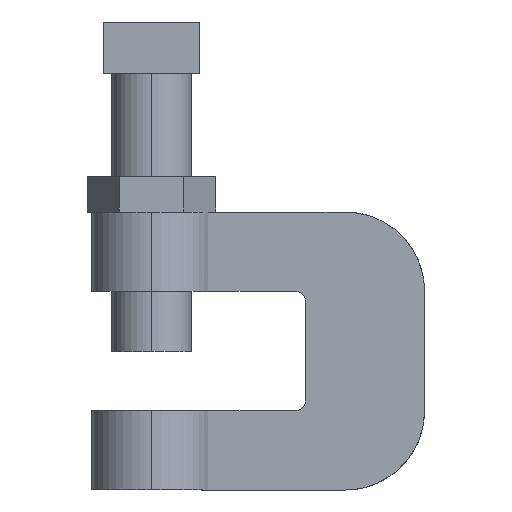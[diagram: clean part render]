
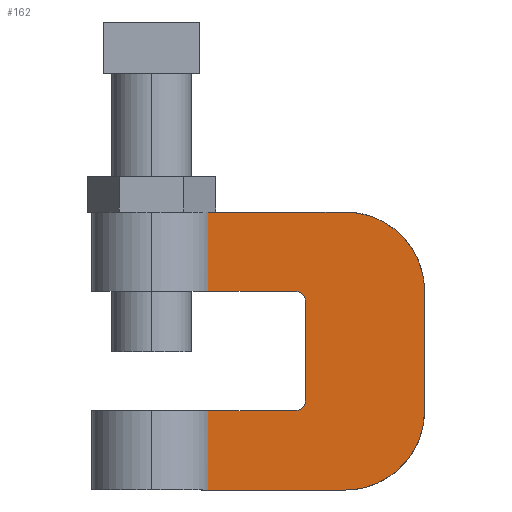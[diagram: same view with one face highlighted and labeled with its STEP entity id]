
A CAD part, front view. The second image highlights one B-rep face of the part: STEP entity #162.
In plain terms, the highlighted planar face has unit normal (0, -1, 0).
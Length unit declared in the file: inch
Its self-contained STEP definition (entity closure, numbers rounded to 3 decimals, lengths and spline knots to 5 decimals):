
#162=ADVANCED_FACE('',(#338),#339,.F.);
#338=FACE_OUTER_BOUND('',#642,.T.);
#339=PLANE('',#643);
#642=EDGE_LOOP('',(#1055,#1056,#1057,#1058,#1059,#1060,#1061,#1062,#1063,#1064,#1065,#1066,#1067,#1068,#1069,#1070));
#643=AXIS2_PLACEMENT_3D('',#1071,#1072,#1073);
#1055=ORIENTED_EDGE('',*,*,#1418,.T.);
#1056=ORIENTED_EDGE('',*,*,#1312,.T.);
#1057=ORIENTED_EDGE('',*,*,#1419,.F.);
#1058=ORIENTED_EDGE('',*,*,#1420,.F.);
#1059=ORIENTED_EDGE('',*,*,#1421,.F.);
#1060=ORIENTED_EDGE('',*,*,#1378,.F.);
#1061=ORIENTED_EDGE('',*,*,#1340,.F.);
#1062=ORIENTED_EDGE('',*,*,#1422,.F.);
#1063=ORIENTED_EDGE('',*,*,#1371,.F.);
#1064=ORIENTED_EDGE('',*,*,#1423,.T.);
#1065=ORIENTED_EDGE('',*,*,#1415,.T.);
#1066=ORIENTED_EDGE('',*,*,#1424,.F.);
#1067=ORIENTED_EDGE('',*,*,#1425,.F.);
#1068=ORIENTED_EDGE('',*,*,#1356,.F.);
#1069=ORIENTED_EDGE('',*,*,#1360,.F.);
#1070=ORIENTED_EDGE('',*,*,#1426,.F.);
#1071=CARTESIAN_POINT('',(0.65504,-0.125,0.87498));
#1072=DIRECTION('',(0.,1.0,0.));
#1073=DIRECTION('',(0.0,0.,1.0));
#1312=EDGE_CURVE('',#1558,#1559,#1560,.T.);
#1340=EDGE_CURVE('',#1600,#1602,#1603,.T.);
#1356=EDGE_CURVE('',#1625,#1627,#1628,.T.);
#1360=EDGE_CURVE('',#1631,#1625,#1633,.T.);
#1371=EDGE_CURVE('',#1649,#1651,#1652,.T.);
#1378=EDGE_CURVE('',#1602,#1661,#1662,.T.);
#1415=EDGE_CURVE('',#1715,#1713,#1716,.T.);
#1418=EDGE_CURVE('',#1719,#1558,#1720,.T.);
#1419=EDGE_CURVE('',#1721,#1559,#1722,.T.);
#1420=EDGE_CURVE('',#1723,#1721,#1724,.T.);
#1421=EDGE_CURVE('',#1661,#1723,#1725,.T.);
#1422=EDGE_CURVE('',#1651,#1600,#1726,.T.);
#1423=EDGE_CURVE('',#1649,#1715,#1727,.T.);
#1424=EDGE_CURVE('',#1728,#1713,#1729,.T.);
#1425=EDGE_CURVE('',#1627,#1728,#1730,.T.);
#1426=EDGE_CURVE('',#1719,#1631,#1731,.T.);
#1558=VERTEX_POINT('',#1933);
#1559=VERTEX_POINT('',#1934);
#1560=LINE('',#1935,#1936);
#1600=VERTEX_POINT('',#2023);
#1602=VERTEX_POINT('',#2026);
#1603=B_SPLINE_CURVE_WITH_KNOTS('',3,(#2027,#2028,#2029,#2030),.UNSPECIFIED.,.F.,.F.,(4,4),(0.0,1.0),.UNSPECIFIED.);
#1625=VERTEX_POINT('',#2070);
#1627=VERTEX_POINT('',#2073);
#1628=LINE('',#2074,#2075);
#1631=VERTEX_POINT('',#2079);
#1633=B_SPLINE_CURVE_WITH_KNOTS('',3,(#2082,#2083,#2084,#2085),.UNSPECIFIED.,.F.,.F.,(4,4),(0.0,1.0),.UNSPECIFIED.);
#1649=VERTEX_POINT('',#2116);
#1651=VERTEX_POINT('',#2119);
#1652=LINE('',#2120,#2121);
#1661=VERTEX_POINT('',#2138);
#1662=LINE('',#2139,#2140);
#1713=VERTEX_POINT('',#2235);
#1715=VERTEX_POINT('',#2242);
#1716=LINE('',#2243,#2244);
#1719=VERTEX_POINT('',#2250);
#1720=LINE('',#2251,#2252);
#1721=VERTEX_POINT('',#2253);
#1722=LINE('',#2254,#2255);
#1723=VERTEX_POINT('',#2256);
#1724=LINE('',#2257,#2258);
#1725=B_SPLINE_CURVE_WITH_KNOTS('',3,(#2259,#2260,#2261,#2262),.UNSPECIFIED.,.F.,.F.,(4,4),(0.0,1.0),.UNSPECIFIED.);
#1726=LINE('',#2263,#2264);
#1727=LINE('',#2265,#2266);
#1728=VERTEX_POINT('',#2267);
#1729=LINE('',#2268,#2269);
#1730=B_SPLINE_CURVE_WITH_KNOTS('',3,(#2270,#2271,#2272,#2273),.UNSPECIFIED.,.F.,.F.,(4,4),(0.0,1.0),.UNSPECIFIED.);
#1731=LINE('',#2274,#2275);
#1933=CARTESIAN_POINT('',(0.04141,-0.125,0.00001));
#1934=CARTESIAN_POINT('',(0.0,-0.125,0.00001));
#1935=CARTESIAN_POINT('',(0.17139,-0.125,0.00001));
#1936=VECTOR('',#2400,1.0);
#2023=CARTESIAN_POINT('',(0.90663,-0.125,1.75));
#2026=CARTESIAN_POINT('',(1.40663,-0.125,1.25));
#2027=CARTESIAN_POINT('',(0.90663,-0.125,1.75));
#2028=CARTESIAN_POINT('',(1.18277,-0.125,1.75));
#2029=CARTESIAN_POINT('',(1.40663,-0.125,1.52614));
#2030=CARTESIAN_POINT('',(1.40663,-0.125,1.25));
#2070=CARTESIAN_POINT('',(0.65663,-0.125,0.5625));
#2073=CARTESIAN_POINT('',(0.65663,-0.125,1.1875));
#2074=CARTESIAN_POINT('',(0.65663,-0.125,0.5625));
#2075=VECTOR('',#2417,1.0);
#2079=CARTESIAN_POINT('',(0.59413,-0.125,0.5));
#2082=CARTESIAN_POINT('',(0.59413,-0.125,0.5));
#2083=CARTESIAN_POINT('',(0.62865,-0.125,0.5));
#2084=CARTESIAN_POINT('',(0.65663,-0.125,0.52798));
#2085=CARTESIAN_POINT('',(0.65663,-0.125,0.5625));
#2116=CARTESIAN_POINT('',(0.00009,-0.125,1.7498));
#2119=CARTESIAN_POINT('',(0.00009,-0.125,1.75));
#2120=CARTESIAN_POINT('',(0.00009,-0.125,1.25));
#2121=VECTOR('',#2424,1.0);
#2138=CARTESIAN_POINT('',(1.40663,-0.125,0.5));
#2139=CARTESIAN_POINT('',(1.40663,-0.125,1.25));
#2140=VECTOR('',#2427,1.0);
#2235=CARTESIAN_POINT('',(0.04141,-0.125,1.25));
#2242=CARTESIAN_POINT('',(0.04141,-0.125,1.7498));
#2243=CARTESIAN_POINT('',(0.04141,-0.125,1.7498));
#2244=VECTOR('',#2446,1.0);
#2250=CARTESIAN_POINT('',(0.04141,-0.125,0.5));
#2251=CARTESIAN_POINT('',(0.04141,-0.125,0.50001));
#2252=VECTOR('',#2447,1.0);
#2253=CARTESIAN_POINT('',(0.0,-0.125,0.0));
#2254=CARTESIAN_POINT('',(0.0,-0.125,0.0));
#2255=VECTOR('',#2448,1.0);
#2256=CARTESIAN_POINT('',(0.90663,-0.125,0.0));
#2257=CARTESIAN_POINT('',(0.90663,-0.125,0.0));
#2258=VECTOR('',#2449,1.0);
#2259=CARTESIAN_POINT('',(1.40663,-0.125,0.5));
#2260=CARTESIAN_POINT('',(1.40663,-0.125,0.22385));
#2261=CARTESIAN_POINT('',(1.18277,-0.125,0.0));
#2262=CARTESIAN_POINT('',(0.90663,-0.125,0.0));
#2263=CARTESIAN_POINT('',(0.00009,-0.125,1.75));
#2264=VECTOR('',#2450,1.0);
#2265=CARTESIAN_POINT('',(0.17139,-0.125,1.7498));
#2266=VECTOR('',#2451,1.0);
#2267=CARTESIAN_POINT('',(0.59413,-0.125,1.25));
#2268=CARTESIAN_POINT('',(0.59413,-0.125,1.25));
#2269=VECTOR('',#2452,1.0);
#2270=CARTESIAN_POINT('',(0.65663,-0.125,1.1875));
#2271=CARTESIAN_POINT('',(0.65663,-0.125,1.22202));
#2272=CARTESIAN_POINT('',(0.62865,-0.125,1.25));
#2273=CARTESIAN_POINT('',(0.59413,-0.125,1.25));
#2274=CARTESIAN_POINT('',(0.0,-0.125,0.5));
#2275=VECTOR('',#2453,1.0);
#2400=DIRECTION('',(-1.0,0.,0.));
#2417=DIRECTION('',(0.0,0.0,1.0));
#2424=DIRECTION('',(0.0,0.,1.0));
#2427=DIRECTION('',(0.0,0.0,-1.0));
#2446=DIRECTION('',(0.0,0.0,-1.0));
#2447=DIRECTION('',(0.0,0.,-1.0));
#2448=DIRECTION('',(0.0,0.0,1.0));
#2449=DIRECTION('',(-1.0,0.0,0.0));
#2450=DIRECTION('',(1.0,0.0,0.0));
#2451=DIRECTION('',(1.0,0.,0.));
#2452=DIRECTION('',(-1.0,0.0,0.0));
#2453=DIRECTION('',(1.0,0.0,0.0));
